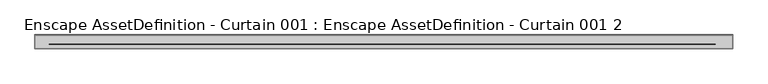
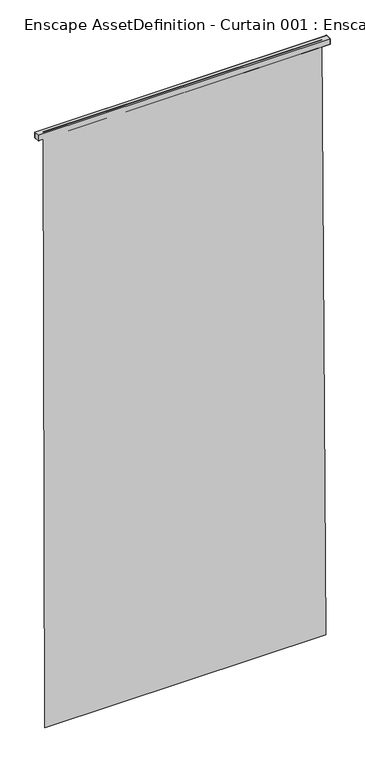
"""IFC4 building model written with IfcOpenShell, lengths in millimetres: geographic element geometry, Enscape AssetDefinition - Curtain 001 : Enscape AssetDefinition - Curtain 001 2."""

from ifc_helpers import new_model, si_unit, origin, place, context, project, spatial, triangles, source, transform, mapped, element, save


def enscape_assetdefinition_curtain_001_enscape_assetdefinition_2034166f(model_context):
    return source(origin(), model_context, "Body", "Tessellation", [
        triangles([(1347.4210979, -39.7411971, -9.58e-05), (-1347.4212433, -58.8845189, 6000.0000458), (1364.543454, -76.3560951, 5939.7903488), (-1403.6932446, -22.408927, 5939.7897675), (-1403.6932446, -22.408927, 5994.7358322), (1364.543454, -22.408927, 5939.7903488), (1364.543454, -22.408927, 5994.7369949), (1364.543454, -76.3560951, 5994.7369949), (-1403.6932446, -76.3559952, 5939.7897675), (-1403.6932446, -76.3559952, 5994.7358322), (-1319.1110527, -39.7411971, 0.0), (1295.1072853, -58.8845189, 6000.0000458)], [[11, 1, 12], [11, 12, 2], [7, 6, 4], [8, 7, 5], [3, 8, 10], [6, 3, 9], [4, 9, 10], [6, 7, 8], [7, 4, 5], [8, 5, 10], [3, 10, 9], [6, 9, 4], [4, 10, 5], [6, 8, 3]], closed=False),
    ])


if __name__ == "__main__":
    model = new_model("IFC4")
    model_context = context("Model", 3, world=origin())
    ifc_project = project(units=[si_unit("LENGTHUNIT", "METRE", prefix="MILLI")], contexts=[model_context])
    site = spatial("IfcSite", under=ifc_project)
    building = spatial("IfcBuilding", under=site)
    placement = place(None, origin())
    enscape_assetdefinition_curtain_001_enscape_assetdefinition_shape = enscape_assetdefinition_curtain_001_enscape_assetdefinition_2034166f(model_context)
    element("IfcGeographicElement", 1, ObjectType="Enscape AssetDefinition - Curtain 001 : Enscape AssetDefinition - Curtain 001 2", at=placement, inside=building, context=model_context, shape_type="MappedRepresentation", body=[
        mapped(enscape_assetdefinition_curtain_001_enscape_assetdefinition_shape, transform((0.0, 0.0, 0.0), x_axis=(1.0, 0.0, 0.0), y_axis=(0.0, 1.0, 0.0), z_axis=(0.0, 0.0, 1.0))),
    ])
    save(model, "model.ifc")
